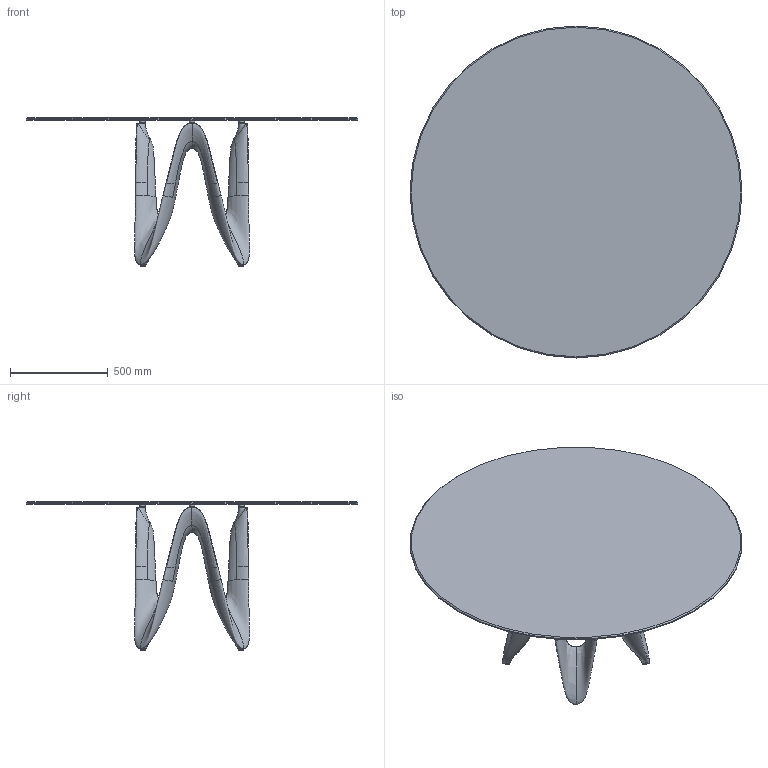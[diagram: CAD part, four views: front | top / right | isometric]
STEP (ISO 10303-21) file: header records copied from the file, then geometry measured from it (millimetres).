
FILE_DESCRIPTION((''),'2;1');
FILE_NAME('C:\AutodeskVault\AreaLavoro\Progetti\SoVeT Italia\1. Tavoli_Dining tables\Lambda\Lambda Round\Web file\P1044 TRCB Contorno semplificato.stp','2012-02-03T16:20:53',('Gianluca'),('So.Ve.T. s.r.l.'),'Autodesk Inventor 2011','Autodesk Inventor 2011','L PROGETTO E'' DI ESCLUSIVA PROPRIETA'' DELLA SO.VE.T srl. E'' VIETATA OGNI RIPRODUZIONE TOTALE O PARZIALE E QUALSIASI UTILIZZO NON AUTORIZZATO. ');
FILE_SCHEMA(('AUTOMOTIVE_DESIGN { 1 0 10303 214 1 1 1 1 }'));
Length unit declared in the file: millimetre
Products named in the file (1): P1044 TRCB Contorno semplificato
Bounding box: 1700 x 1700 x 760 mm (x, y, z)
Volume: 45720512.3 mm3; surface area: 5958000.6 mm2
Topology: 1 solids, 1 shells, 4014 faces, 9199 edges, 4763 vertices
Faces by surface type: cylinder 1461, plane 977, bspline 678, sphere 576, torus 300, cone 22
Full cylindrical faces by diameter (mm): 9 x4, 25 x4, 30 x4, 1700 x1
Entity records: 298356 total; most frequent: CARTESIAN_POINT 211550, DIRECTION 17135, ORIENTED_EDGE 17120, EDGE_CURVE 8560, AXIS2_PLACEMENT_3D 7001, VERTEX_POINT 4755, EDGE_LOOP 4229, FACE_OUTER_BOUND 4014
